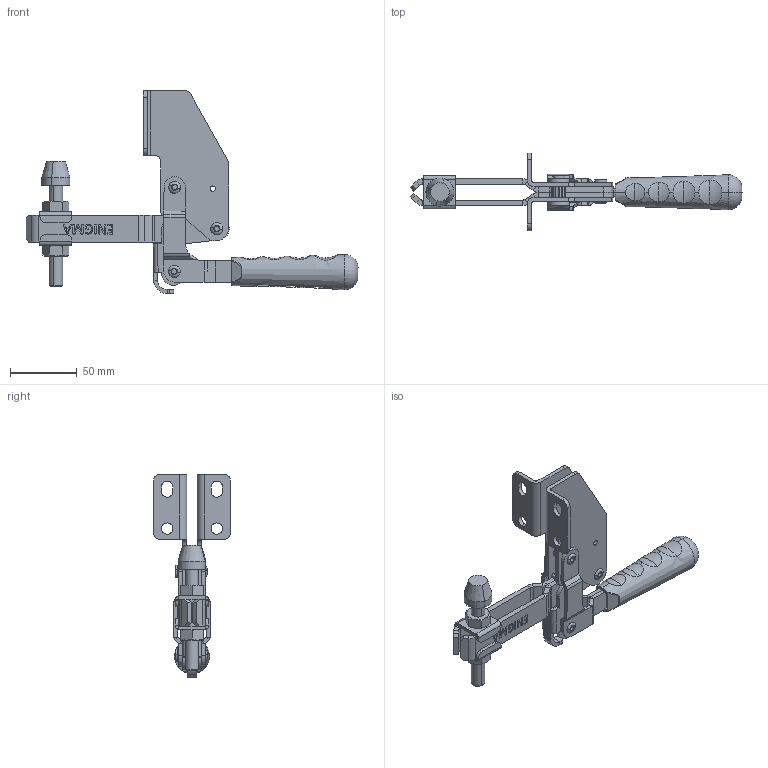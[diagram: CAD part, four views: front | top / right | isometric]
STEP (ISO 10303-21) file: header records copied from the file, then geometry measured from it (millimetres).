
FILE_DESCRIPTION (( 'STEP AP214' ), '1' );
FILE_NAME ('1204-A.STEP', '2022-09-02T07:37:40', ( '' ), ( '' ), 'SwSTEP 2.0', 'SolidWorks 2022', '' );
FILE_SCHEMA (( 'AUTOMOTIVE_DESIGN' ));
Length unit declared in the file: millimetre
Products named in the file (16): 1210_UFA_Gövde-1; M10_Baskı Grubu-1; M10 Somun-1; Burc_10x6x8-1; C95_Yeni_Tutamak_Varsayılan; Aynalama1110_Hareket Kolu(Varsayılan); 1210_Baskı Kolu-1; Pim_6x24_5-1; M10 Askı-1; 1204-A; 1210_Mafsal-1; 1210_Baskı Kolu-2; Pim_6x18-1; Baskı M10-1; 1110_Hareket Kolu(Varsayılan); Burc_10x6x14-1
Assembly tree (21 placements, depth 3):
  1204-A
    M10_Baskı Grubu-1
      Baskı M10-1
      M10 Askı-1  x2
      M10 Somun-1  x2
    1210_UFA_Gövde-1
    1210_Mafsal-1
    1210_Baskı Kolu-1
    1210_Baskı Kolu-2
    Burc_10x6x14-1  x2
    Pim_6x24_5-1  x2
    Pim_6x18-1  x2
    Burc_10x6x8-1  x2
    1110_Hareket Kolu(Varsayılan)
    Aynalama1110_Hareket Kolu(Varsayılan)
    C95_Yeni_Tutamak_Varsayılan
Bounding box: 248.77 x 57.99 x 152.03 mm (x, y, z)
Volume: 137858.3 mm3; surface area: 88820.8 mm2
Topology: 21 solids, 21 shells, 1324 faces, 3311 edges, 2104 vertices
Faces by surface type: plane 851, cylinder 256, bspline 105, cone 74, torus 36, sphere 2
Entity records: 36114 total; most frequent: CARTESIAN_POINT 10525, ORIENTED_EDGE 5082, DIRECTION 4688, EDGE_CURVE 2541, LINE 1698, VECTOR 1698, VERTEX_POINT 1614, AXIS2_PLACEMENT_3D 1495
